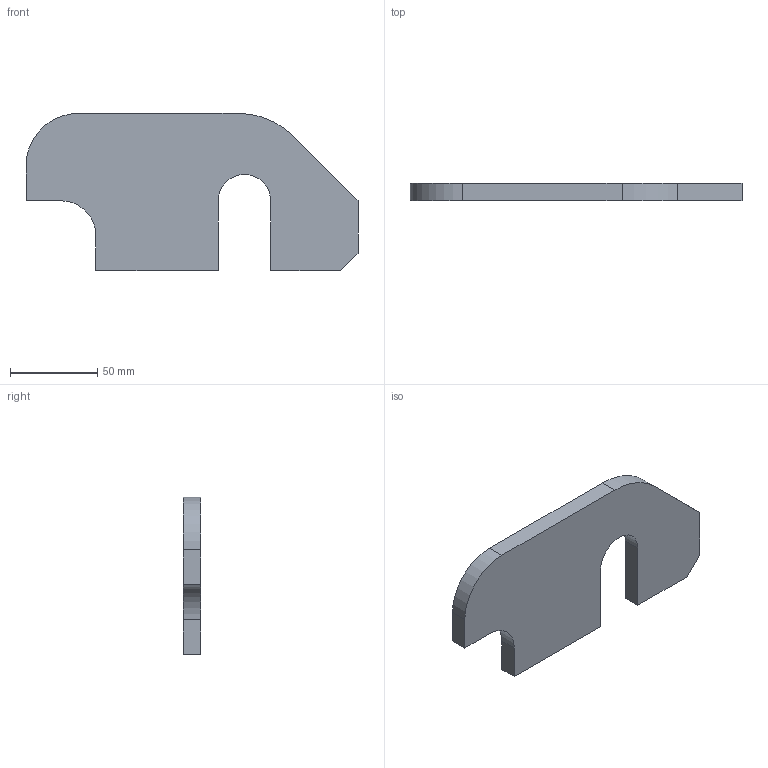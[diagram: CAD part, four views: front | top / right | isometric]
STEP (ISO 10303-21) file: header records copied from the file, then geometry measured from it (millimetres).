
FILE_DESCRIPTION(/* description */ (''),/* implementation_level */ '2;1');
FILE_NAME(/* name */ 'E:\OneDrive\Desktop\HGC_Tangency_04_2021\3D CAD Models\Task_1_HGC_Tangency_v1.stp',/* time_stamp */ '2021-04-10T20:32:29+01:00',/* author */ ('hunte'),/* organization */ (''),/* preprocessor_version */ 'ST-DEVELOPER v18.1',/* originating_system */ 'Autodesk Inventor 2020',/* authorisation */ '');
FILE_SCHEMA (('AUTOMOTIVE_DESIGN { 1 0 10303 214 3 1 1 }'));
Length unit declared in the file: millimetre
Products named in the file (1): Task_1_HGC_Tangency_v1
Bounding box: 190 x 10 x 90 mm (x, y, z)
Volume: 124957 mm3; surface area: 30977.2 mm2
Topology: 1 solids, 1 shells, 17 faces, 45 edges, 30 vertices
Faces by surface type: plane 13, cylinder 4
Entity records: 568 total; most frequent: CARTESIAN_POINT 93, ORIENTED_EDGE 90, DIRECTION 89, EDGE_CURVE 45, LINE 37, VECTOR 37, VERTEX_POINT 30, AXIS2_PLACEMENT_3D 26
